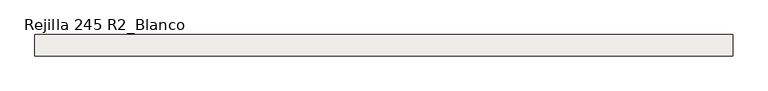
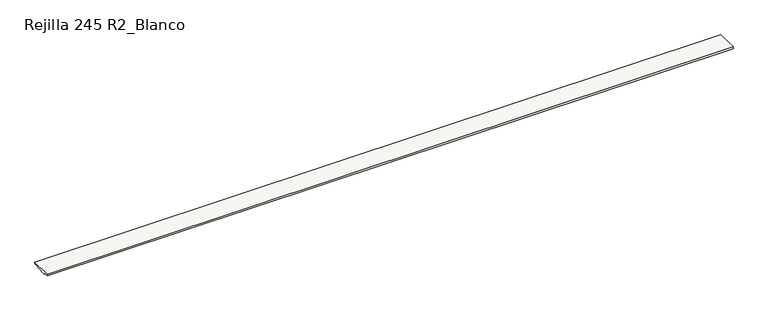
"""IFC4 building model written with IfcOpenShell, lengths in millimetres: slab geometry, ROSA GRES_245 R2 : Rejilla 245 R2_Blanco."""

from ifc_helpers import new_model, si_unit, frame, origin, place, context, project, spatial, polyline, outline, extrude, source, transform, mapped, element, save


def rejilla_245_r2_blanco_09f0caf5(model_context):
    return source(origin(), model_context, "Body", "SweptSolid", [
        extrude(outline(polyline([(-369.5908797, 206.3460936), (-411.8675475, 206.3460936), (-422.8675475, 195.3460936), (-561.3142119, 195.3460936), (-572.3142119, 206.3460936), (-614.5908797, 206.3460936), (-614.5908797, 228.3460936), (-369.5908797, 228.3460936), (-369.5908797, 206.3460936)])), frame((0.0, 0.0, 0.0), z_axis=(1.0, 0.0, 0.0), x_axis=(0.0, 1.0, 0.0)), (0.0, 0.0, 1.0), 8000.0),
    ])


if __name__ == "__main__":
    model = new_model("IFC4")
    model_context = context("Model", 3, world=origin())
    ifc_project = project(units=[si_unit("LENGTHUNIT", "METRE", prefix="MILLI")], contexts=[model_context])
    site = spatial("IfcSite", under=ifc_project)
    building = spatial("IfcBuilding", under=site)
    placement = place(None, origin())
    rejilla_245_r2_blanco_shape = rejilla_245_r2_blanco_09f0caf5(model_context)
    element("IfcSlab", 1, ObjectType="ROSA GRES_245 R2 : Rejilla 245 R2_Blanco", at=placement, inside=building, context=model_context, shape_type="MappedRepresentation", body=[
        mapped(rejilla_245_r2_blanco_shape, transform((0.0, 0.0, 0.0), x_axis=(1.0, 0.0, 0.0), y_axis=(0.0, 1.0, 0.0), z_axis=(0.0, 0.0, 1.0))),
    ])
    save(model, "model.ifc")
